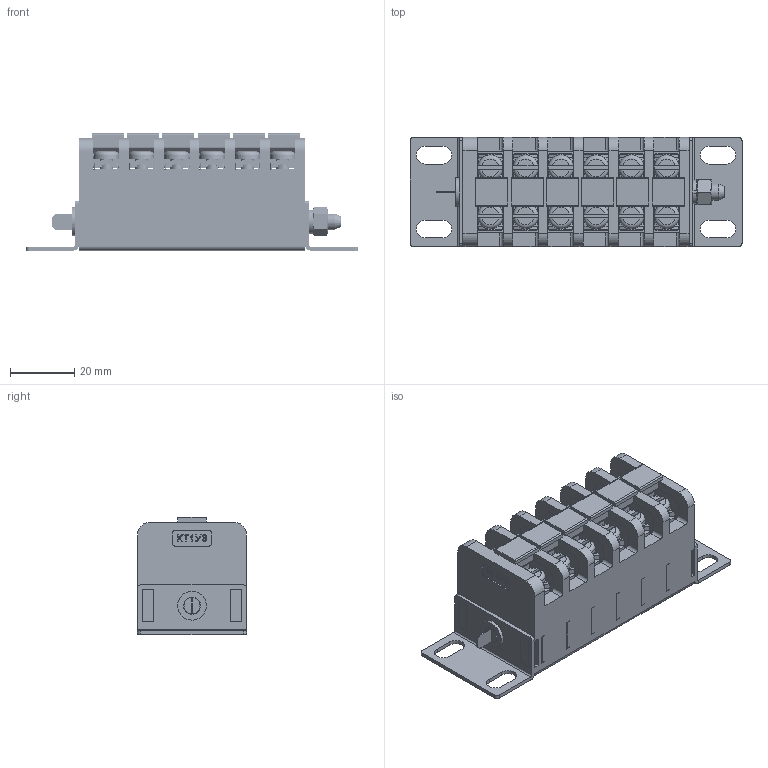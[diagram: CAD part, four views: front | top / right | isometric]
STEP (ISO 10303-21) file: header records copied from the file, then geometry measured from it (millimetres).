
FILE_DESCRIPTION(('STEP AP214'), '1');
FILE_NAME('ÁÇÍ28-4Ï25 (6 êëåìì â áëîêå) ', '2024-03-18T11:12:00', (''), (''), 'ASCON STEP Converter 1.6', 'ASCON Math Kernel', '');
FILE_SCHEMA(('AUTOMOTIVE_DESIGN { 1 0 10303 214 3 1 1}'));
Length unit declared in the file: millimetre
Bounding box: 103.5 x 34 x 36.5 mm (x, y, z)
Volume: 48436.4 mm3; surface area: 44302.5 mm2
Topology: 25 solids, 25 shells, 8565 faces, 24091 edges, 15834 vertices
Faces by surface type: cylinder 4955, plane 3328, bspline 192, cone 66, torus 24
Full cylindrical faces by diameter (mm): 4 x12, 4.1 x12, 5 x2, 5.3 x1, 5.5 x9, 6.5 x6, 9 x1, 10.5 x14
Entity records: 355744 total; most frequent: CARTESIAN_POINT 59696, DIRECTION 49372, ORIENTED_EDGE 47988, EDGE_CURVE 23994, AXIS2_PLACEMENT_3D 17948, VERTEX_POINT 15834, LINE 13476, VECTOR 13476
